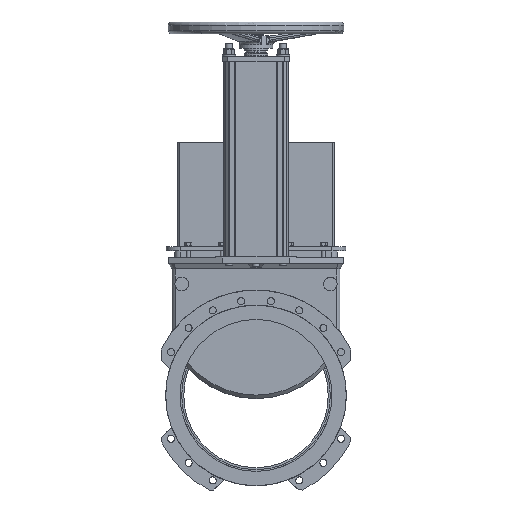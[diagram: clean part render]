
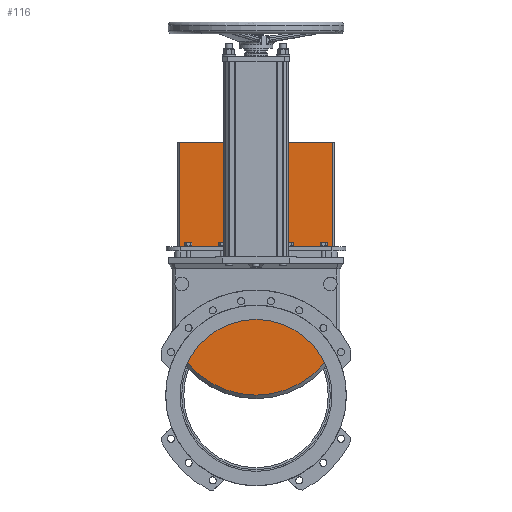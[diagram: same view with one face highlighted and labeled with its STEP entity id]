
A CAD part, left-side view. The second image highlights one B-rep face of the part: STEP entity #116.
In plain terms, the highlighted planar face has unit normal (-1, 0, 0).
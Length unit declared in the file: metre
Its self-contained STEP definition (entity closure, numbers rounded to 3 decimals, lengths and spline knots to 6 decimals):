
#116=ADVANCED_FACE('',(#1347,#1348),#1349,.F.);
#1347=FACE_OUTER_BOUND('',#4189,.T.);
#1348=FACE_BOUND('',#4190,.T.);
#1349=PLANE('',#4191);
#4189=EDGE_LOOP('',(#15821,#15822,#15823,#15824,#15825,#15826,#15827,#15828));
#4190=EDGE_LOOP('',(#15829,#15830,#15831,#15832));
#4191=AXIS2_PLACEMENT_3D('',#15833,#15834,#15835);
#15821=ORIENTED_EDGE('',*,*,#24621,.F.);
#15822=ORIENTED_EDGE('',*,*,#24616,.T.);
#15823=ORIENTED_EDGE('',*,*,#24633,.T.);
#15824=ORIENTED_EDGE('',*,*,#24652,.T.);
#15825=ORIENTED_EDGE('',*,*,#24659,.T.);
#15826=ORIENTED_EDGE('',*,*,#24648,.T.);
#15827=ORIENTED_EDGE('',*,*,#24660,.T.);
#15828=ORIENTED_EDGE('',*,*,#24644,.T.);
#15829=ORIENTED_EDGE('',*,*,#24661,.F.);
#15830=ORIENTED_EDGE('',*,*,#24662,.T.);
#15831=ORIENTED_EDGE('',*,*,#24663,.T.);
#15832=ORIENTED_EDGE('',*,*,#24664,.F.);
#15833=CARTESIAN_POINT('',(-0.006,-0.227,-0.011));
#15834=DIRECTION('',(1.0,0.0,-0.0));
#15835=DIRECTION('',(0.0,0.0,1.0));
#24616=EDGE_CURVE('',#28077,#28074,#28078,.F.);
#24621=EDGE_CURVE('',#28077,#28086,#28087,.T.);
#24633=EDGE_CURVE('',#28074,#28105,#28107,.T.);
#24644=EDGE_CURVE('',#28128,#28086,#28129,.T.);
#24648=EDGE_CURVE('',#28136,#28134,#28137,.T.);
#24652=EDGE_CURVE('',#28105,#28142,#28144,.T.);
#24659=EDGE_CURVE('',#28142,#28136,#28157,.T.);
#24660=EDGE_CURVE('',#28134,#28128,#28158,.T.);
#24661=EDGE_CURVE('',#28159,#28160,#28161,.T.);
#24662=EDGE_CURVE('',#28159,#28162,#28163,.T.);
#24663=EDGE_CURVE('',#28162,#28164,#28165,.T.);
#24664=EDGE_CURVE('',#28160,#28164,#28166,.T.);
#28074=VERTEX_POINT('',#32685);
#28077=VERTEX_POINT('',#32719);
#28078=CIRCLE('',#32720,0.263);
#28086=VERTEX_POINT('',#32773);
#28087=LINE('',#32774,#32775);
#28105=VERTEX_POINT('',#32804);
#28107=LINE('',#32806,#32807);
#28128=VERTEX_POINT('',#32847);
#28129=LINE('',#32848,#32849);
#28134=VERTEX_POINT('',#32856);
#28136=VERTEX_POINT('',#32859);
#28137=LINE('',#32860,#32861);
#28142=VERTEX_POINT('',#32868);
#28144=LINE('',#32871,#32872);
#28157=LINE('',#32885,#32886);
#28158=LINE('',#32887,#32888);
#28159=VERTEX_POINT('',#32889);
#28160=VERTEX_POINT('',#32890);
#28161=LINE('',#32891,#32892);
#28162=VERTEX_POINT('',#32893);
#28163=LINE('',#32894,#32895);
#28164=VERTEX_POINT('',#32896);
#28165=LINE('',#32897,#32898);
#28166=LINE('',#32899,#32900);
#32685=CARTESIAN_POINT('',(-0.006,-0.227,0.131184));
#32719=CARTESIAN_POINT('',(-0.006,0.227,0.131184));
#32720=AXIS2_PLACEMENT_3D('',#45756,#45757,#45758);
#32773=CARTESIAN_POINT('',(-0.006,0.227,0.749));
#32774=CARTESIAN_POINT('',(-0.006,0.227,-0.011));
#32775=VECTOR('',#45763,1.0);
#32804=CARTESIAN_POINT('',(-0.006,-0.227,0.749));
#32806=CARTESIAN_POINT('',(-0.006,-0.227,-0.011));
#32807=VECTOR('',#45790,1.0);
#32847=CARTESIAN_POINT('',(-0.006,0.08,0.749));
#32848=CARTESIAN_POINT('',(-0.006,-0.227,0.749));
#32849=VECTOR('',#45801,1.0);
#32856=CARTESIAN_POINT('',(-0.006,0.036,0.749));
#32859=CARTESIAN_POINT('',(-0.006,-0.036,0.749));
#32860=CARTESIAN_POINT('',(-0.006,-0.227,0.749));
#32861=VECTOR('',#45805,1.0);
#32868=CARTESIAN_POINT('',(-0.006,-0.08,0.749));
#32871=CARTESIAN_POINT('',(-0.006,-0.227,0.749));
#32872=VECTOR('',#45809,1.0);
#32885=CARTESIAN_POINT('',(-0.006,-0.227,0.749));
#32886=VECTOR('',#45828,1.0);
#32887=CARTESIAN_POINT('',(-0.006,-0.227,0.749));
#32888=VECTOR('',#45829,1.0);
#32889=CARTESIAN_POINT('',(-0.006,-0.08,0.748));
#32890=CARTESIAN_POINT('',(-0.006,0.08,0.748));
#32891=CARTESIAN_POINT('',(-0.006,-0.08,0.748));
#32892=VECTOR('',#45830,1.0);
#32893=CARTESIAN_POINT('',(-0.006,-0.08,0.679));
#32894=CARTESIAN_POINT('',(-0.006,-0.08,0.748));
#32895=VECTOR('',#45831,1.0);
#32896=CARTESIAN_POINT('',(-0.006,0.08,0.679));
#32897=CARTESIAN_POINT('',(-0.006,-0.08,0.679));
#32898=VECTOR('',#45832,1.0);
#32899=CARTESIAN_POINT('',(-0.006,0.08,0.748));
#32900=VECTOR('',#45833,1.0);
#45756=CARTESIAN_POINT('',(-0.006,0.0,0.264));
#45757=DIRECTION('',(1.0,0.0,-0.0));
#45758=DIRECTION('',(0.0,0.0,1.0));
#45763=DIRECTION('',(0.0,0.0,1.0));
#45790=DIRECTION('',(0.0,0.0,1.0));
#45801=DIRECTION('',(0.0,1.0,0.0));
#45805=DIRECTION('',(0.0,1.0,0.0));
#45809=DIRECTION('',(0.0,1.0,0.0));
#45828=DIRECTION('',(0.0,1.0,0.0));
#45829=DIRECTION('',(0.0,1.0,0.0));
#45830=DIRECTION('',(0.0,1.0,0.0));
#45831=DIRECTION('',(0.0,0.0,-1.0));
#45832=DIRECTION('',(0.0,1.0,0.0));
#45833=DIRECTION('',(0.0,0.0,-1.0));
